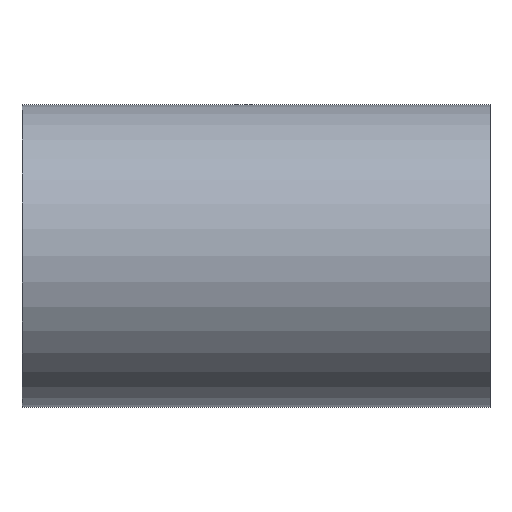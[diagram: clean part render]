
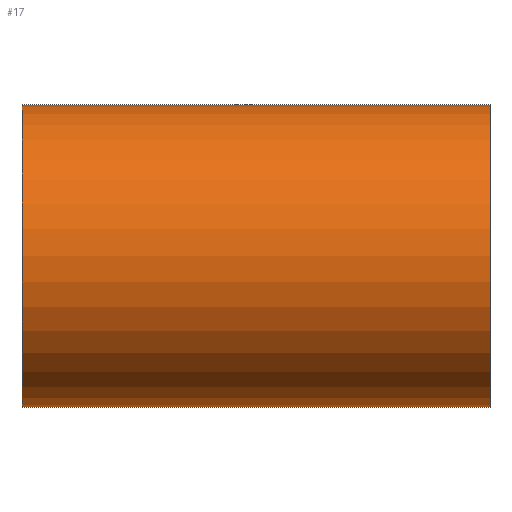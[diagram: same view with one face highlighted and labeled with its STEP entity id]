
A CAD part, top view. The second image highlights one B-rep face of the part: STEP entity #17.
In plain terms, the highlighted cylindrical face has radius 42 mm (diameter 84 mm), a partial arc.
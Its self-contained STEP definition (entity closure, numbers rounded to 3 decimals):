
#17 = ADVANCED_FACE('',(#18),#33,.T.);
#18 = FACE_BOUND('',#19,.T.);
#19 = EDGE_LOOP('',(#20,#56,#84,#117));
#20 = ORIENTED_EDGE('',*,*,#21,.T.);
#21 = EDGE_CURVE('',#22,#24,#26,.T.);
#22 = VERTEX_POINT('',#23);
#23 = CARTESIAN_POINT('',(555.,42.,0.));
#24 = VERTEX_POINT('',#25);
#25 = CARTESIAN_POINT('',(555.,-42.,0.));
#26 = SURFACE_CURVE('',#27,(#32,#44),.PCURVE_S1.);
#27 = CIRCLE('',#28,42.);
#28 = AXIS2_PLACEMENT_3D('',#29,#30,#31);
#29 = CARTESIAN_POINT('',(555.,0.,0.));
#30 = DIRECTION('',(1.,-0.,0.));
#31 = DIRECTION('',(0.,1.,0.));
#32 = PCURVE('',#33,#38);
#33 = CYLINDRICAL_SURFACE('',#34,42.);
#34 = AXIS2_PLACEMENT_3D('',#35,#36,#37);
#35 = CARTESIAN_POINT('',(555.,0.,0.));
#36 = DIRECTION('',(1.,0.,0.));
#37 = DIRECTION('',(-0.,0.,1.));
#38 = DEFINITIONAL_REPRESENTATION('',(#39),#43);
#39 = LINE('',#40,#41);
#40 = CARTESIAN_POINT('',(4.712,0.));
#41 = VECTOR('',#42,1.);
#42 = DIRECTION('',(1.,0.));
#43 = ( GEOMETRIC_REPRESENTATION_CONTEXT(2) 
PARAMETRIC_REPRESENTATION_CONTEXT() REPRESENTATION_CONTEXT('2D SPACE',''
  ) );
#44 = PCURVE('',#45,#50);
#45 = PLANE('',#46);
#46 = AXIS2_PLACEMENT_3D('',#47,#48,#49);
#47 = CARTESIAN_POINT('',(555.,0.,0.));
#48 = DIRECTION('',(1.,0.,0.));
#49 = DIRECTION('',(-0.,0.,1.));
#50 = DEFINITIONAL_REPRESENTATION('',(#51),#55);
#51 = CIRCLE('',#52,42.);
#52 = AXIS2_PLACEMENT_2D('',#53,#54);
#53 = CARTESIAN_POINT('',(0.,0.));
#54 = DIRECTION('',(0.,-1.));
#55 = ( GEOMETRIC_REPRESENTATION_CONTEXT(2) 
PARAMETRIC_REPRESENTATION_CONTEXT() REPRESENTATION_CONTEXT('2D SPACE',''
  ) );
#56 = ORIENTED_EDGE('',*,*,#57,.T.);
#57 = EDGE_CURVE('',#24,#58,#60,.T.);
#58 = VERTEX_POINT('',#59);
#59 = CARTESIAN_POINT('',(685.,-42.,0.));
#60 = SURFACE_CURVE('',#61,(#65,#72),.PCURVE_S1.);
#61 = LINE('',#62,#63);
#62 = CARTESIAN_POINT('',(555.,-42.,0.));
#63 = VECTOR('',#64,1.);
#64 = DIRECTION('',(1.,0.,0.));
#65 = PCURVE('',#33,#66);
#66 = DEFINITIONAL_REPRESENTATION('',(#67),#71);
#67 = LINE('',#68,#69);
#68 = CARTESIAN_POINT('',(7.854,0.));
#69 = VECTOR('',#70,1.);
#70 = DIRECTION('',(0.,1.));
#71 = ( GEOMETRIC_REPRESENTATION_CONTEXT(2) 
PARAMETRIC_REPRESENTATION_CONTEXT() REPRESENTATION_CONTEXT('2D SPACE',''
  ) );
#72 = PCURVE('',#73,#78);
#73 = PLANE('',#74);
#74 = AXIS2_PLACEMENT_3D('',#75,#76,#77);
#75 = CARTESIAN_POINT('',(554.,-50.,0.));
#76 = DIRECTION('',(0.,0.,1.));
#77 = DIRECTION('',(1.,0.,0.));
#78 = DEFINITIONAL_REPRESENTATION('',(#79),#83);
#79 = LINE('',#80,#81);
#80 = CARTESIAN_POINT('',(1.,8.));
#81 = VECTOR('',#82,1.);
#82 = DIRECTION('',(1.,0.));
#83 = ( GEOMETRIC_REPRESENTATION_CONTEXT(2) 
PARAMETRIC_REPRESENTATION_CONTEXT() REPRESENTATION_CONTEXT('2D SPACE',''
  ) );
#84 = ORIENTED_EDGE('',*,*,#85,.T.);
#85 = EDGE_CURVE('',#58,#86,#88,.T.);
#86 = VERTEX_POINT('',#87);
#87 = CARTESIAN_POINT('',(685.,42.,0.));
#88 = SURFACE_CURVE('',#89,(#94,#101),.PCURVE_S1.);
#89 = CIRCLE('',#90,42.);
#90 = AXIS2_PLACEMENT_3D('',#91,#92,#93);
#91 = CARTESIAN_POINT('',(685.,0.,0.));
#92 = DIRECTION('',(-1.,0.,0.));
#93 = DIRECTION('',(0.,-1.,0.));
#94 = PCURVE('',#33,#95);
#95 = DEFINITIONAL_REPRESENTATION('',(#96),#100);
#96 = LINE('',#97,#98);
#97 = CARTESIAN_POINT('',(7.854,130.));
#98 = VECTOR('',#99,1.);
#99 = DIRECTION('',(-1.,-0.));
#100 = ( GEOMETRIC_REPRESENTATION_CONTEXT(2) 
PARAMETRIC_REPRESENTATION_CONTEXT() REPRESENTATION_CONTEXT('2D SPACE',''
  ) );
#101 = PCURVE('',#102,#107);
#102 = PLANE('',#103);
#103 = AXIS2_PLACEMENT_3D('',#104,#105,#106);
#104 = CARTESIAN_POINT('',(685.,0.,0.));
#105 = DIRECTION('',(1.,0.,0.));
#106 = DIRECTION('',(-0.,0.,1.));
#107 = DEFINITIONAL_REPRESENTATION('',(#108),#116);
#108 = ( BOUNDED_CURVE() B_SPLINE_CURVE(2,(#109,#110,#111,#112,#113,#114
,#115),.UNSPECIFIED.,.T.,.F.) B_SPLINE_CURVE_WITH_KNOTS((1,2,2,2,2,1),(
    -2.094,0.,2.094,4.189,6.283,
8.378),.UNSPECIFIED.) CURVE() GEOMETRIC_REPRESENTATION_ITEM() 
RATIONAL_B_SPLINE_CURVE((1.,0.5,1.,0.5,1.,0.5,1.)) REPRESENTATION_ITEM(
  '') );
#109 = CARTESIAN_POINT('',(0.,42.));
#110 = CARTESIAN_POINT('',(72.746,42.));
#111 = CARTESIAN_POINT('',(36.373,-21.));
#112 = CARTESIAN_POINT('',(0.,-84.));
#113 = CARTESIAN_POINT('',(-36.373,-21.));
#114 = CARTESIAN_POINT('',(-72.746,42.));
#115 = CARTESIAN_POINT('',(0.,42.));
#116 = ( GEOMETRIC_REPRESENTATION_CONTEXT(2) 
PARAMETRIC_REPRESENTATION_CONTEXT() REPRESENTATION_CONTEXT('2D SPACE',''
  ) );
#117 = ORIENTED_EDGE('',*,*,#118,.F.);
#118 = EDGE_CURVE('',#22,#86,#119,.T.);
#119 = SURFACE_CURVE('',#120,(#124,#131),.PCURVE_S1.);
#120 = LINE('',#121,#122);
#121 = CARTESIAN_POINT('',(555.,42.,0.));
#122 = VECTOR('',#123,1.);
#123 = DIRECTION('',(1.,0.,0.));
#124 = PCURVE('',#33,#125);
#125 = DEFINITIONAL_REPRESENTATION('',(#126),#130);
#126 = LINE('',#127,#128);
#127 = CARTESIAN_POINT('',(4.712,0.));
#128 = VECTOR('',#129,1.);
#129 = DIRECTION('',(0.,1.));
#130 = ( GEOMETRIC_REPRESENTATION_CONTEXT(2) 
PARAMETRIC_REPRESENTATION_CONTEXT() REPRESENTATION_CONTEXT('2D SPACE',''
  ) );
#131 = PCURVE('',#132,#137);
#132 = PLANE('',#133);
#133 = AXIS2_PLACEMENT_3D('',#134,#135,#136);
#134 = CARTESIAN_POINT('',(554.,-50.,0.));
#135 = DIRECTION('',(0.,0.,1.));
#136 = DIRECTION('',(1.,0.,0.));
#137 = DEFINITIONAL_REPRESENTATION('',(#138),#142);
#138 = LINE('',#139,#140);
#139 = CARTESIAN_POINT('',(1.,92.));
#140 = VECTOR('',#141,1.);
#141 = DIRECTION('',(1.,0.));
#142 = ( GEOMETRIC_REPRESENTATION_CONTEXT(2) 
PARAMETRIC_REPRESENTATION_CONTEXT() REPRESENTATION_CONTEXT('2D SPACE',''
  ) );
